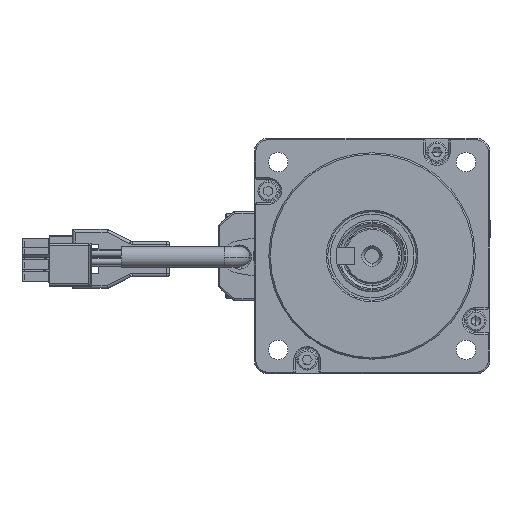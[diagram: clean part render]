
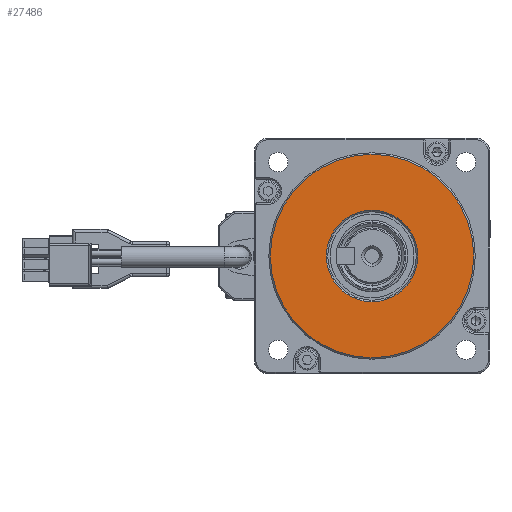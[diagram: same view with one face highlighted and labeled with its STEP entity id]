
A CAD part, left-side view. The second image highlights one B-rep face of the part: STEP entity #27486.
In plain terms, the highlighted planar face has unit normal (-1, 0, 0).
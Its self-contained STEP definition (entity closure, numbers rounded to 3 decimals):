
#1537 = DIRECTION ( 'NONE',  ( 1., 0., 0. ) ) ;
#1709 = AXIS2_PLACEMENT_3D ( 'NONE', #36804, #16282, #40222 ) ;
#2646 = CARTESIAN_POINT ( 'NONE',  ( -3., 0., 0. ) ) ;
#6111 = DIRECTION ( 'NONE',  ( -1., 0., 0. ) ) ;
#6662 = VERTEX_POINT ( 'NONE', #32967 ) ;
#9452 = DIRECTION ( 'NONE',  ( 0., 0., 1. ) ) ;
#10233 = AXIS2_PLACEMENT_3D ( 'NONE', #22053, #1537, #25468 ) ;
#10252 = VERTEX_POINT ( 'NONE', #43398 ) ;
#12493 = VERTEX_POINT ( 'NONE', #30731 ) ;
#13204 = AXIS2_PLACEMENT_3D ( 'NONE', #2646, #6111, #30029 ) ;
#15445 = CIRCLE ( 'NONE', #10233, 15.5 ) ;
#16036 = EDGE_CURVE ( 'NONE', #6662, #37425, #17765, .T. ) ;
#16282 = DIRECTION ( 'NONE',  ( 1., 0., 0. ) ) ;
#17765 = CIRCLE ( 'NONE', #31189, 34.5 ) ;
#19312 = CARTESIAN_POINT ( 'NONE',  ( -3., 0., -34.5 ) ) ;
#19746 = DIRECTION ( 'NONE',  ( -1., 0., 0. ) ) ;
#22053 = CARTESIAN_POINT ( 'NONE',  ( -3., 0., 0. ) ) ;
#24622 = CIRCLE ( 'NONE', #1709, 15.5 ) ;
#25310 = EDGE_CURVE ( 'NONE', #10252, #12493, #15445, .T. ) ;
#25468 = DIRECTION ( 'NONE',  ( 0., 0., 1. ) ) ;
#25921 = EDGE_LOOP ( 'NONE', ( #30403, #35931 ) ) ;
#27486 = ADVANCED_FACE ( 'NONE', ( #36378, #34241 ), #40199, .T. ) ;
#29286 = ORIENTED_EDGE ( 'NONE', *, *, #25310, .T. ) ;
#29766 = CARTESIAN_POINT ( 'NONE',  ( -3., 0., 0. ) ) ;
#30029 = DIRECTION ( 'NONE',  ( 0., 0., 1. ) ) ;
#30403 = ORIENTED_EDGE ( 'NONE', *, *, #34113, .T. ) ;
#30731 = CARTESIAN_POINT ( 'NONE',  ( -3., 0., -15.5 ) ) ;
#31189 = AXIS2_PLACEMENT_3D ( 'NONE', #29766, #40776, #9452 ) ;
#32050 = CIRCLE ( 'NONE', #36087, 34.5 ) ;
#32967 = CARTESIAN_POINT ( 'NONE',  ( -3., 0., 34.5 ) ) ;
#34113 = EDGE_CURVE ( 'NONE', #37425, #6662, #32050, .T. ) ;
#34241 = FACE_OUTER_BOUND ( 'NONE', #25921, .T. ) ;
#35931 = ORIENTED_EDGE ( 'NONE', *, *, #16036, .T. ) ;
#36087 = AXIS2_PLACEMENT_3D ( 'NONE', #40234, #19746, #43695 ) ;
#36378 = FACE_BOUND ( 'NONE', #40886, .T. ) ;
#36804 = CARTESIAN_POINT ( 'NONE',  ( -3., 0., 0. ) ) ;
#37425 = VERTEX_POINT ( 'NONE', #19312 ) ;
#40199 = PLANE ( 'NONE',  #13204 ) ;
#40222 = DIRECTION ( 'NONE',  ( 0., 0., 1. ) ) ;
#40234 = CARTESIAN_POINT ( 'NONE',  ( -3., 0., 0. ) ) ;
#40776 = DIRECTION ( 'NONE',  ( -1., 0., 0. ) ) ;
#40886 = EDGE_LOOP ( 'NONE', ( #29286, #41635 ) ) ;
#41635 = ORIENTED_EDGE ( 'NONE', *, *, #43908, .T. ) ;
#43398 = CARTESIAN_POINT ( 'NONE',  ( -3., 0., 15.5 ) ) ;
#43695 = DIRECTION ( 'NONE',  ( 0., 0., 1. ) ) ;
#43908 = EDGE_CURVE ( 'NONE', #12493, #10252, #24622, .T. ) ;
